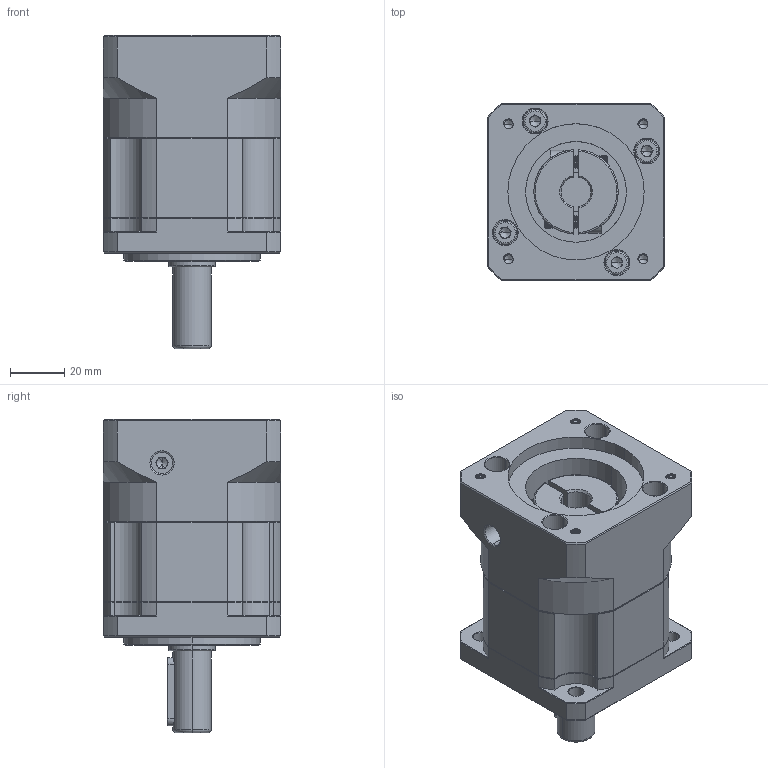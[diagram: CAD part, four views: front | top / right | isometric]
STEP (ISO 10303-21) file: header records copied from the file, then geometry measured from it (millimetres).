
FILE_DESCRIPTION (( 'STEP AP214' ), '1' );
FILE_NAME ('ZB060-D14-L1-P2-11-50-70-M4.step', '2023-08-16T06:59:07', ( '' ), ( '' ), 'SwSTEP 2.0', 'SolidWorks 2016', '' );
FILE_SCHEMA (( 'AUTOMOTIVE_DESIGN' ));
Length unit declared in the file: millimetre
Products named in the file (1): ZB060-D14-L1-P2-11-50-70-M4
Bounding box: 65 x 65 x 115 mm (x, y, z)
Volume: 269575.9 mm3; surface area: 54440.3 mm2
Topology: 6 solids, 6 shells, 2142 faces, 5766 edges, 3712 vertices
Faces by surface type: plane 1059, bspline 397, cylinder 371, cone 279, torus 36
Entity records: 113522 total; most frequent: CARTESIAN_POINT 39289, ORIENTED_EDGE 11472, DIRECTION 9052, EDGE_CURVE 5736, VERTEX_POINT 3712, VECTOR 3622, LINE 3622, AXIS2_PLACEMENT_3D 2715
